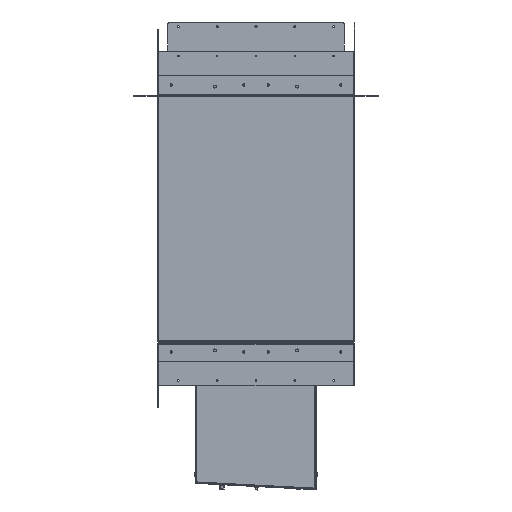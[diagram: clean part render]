
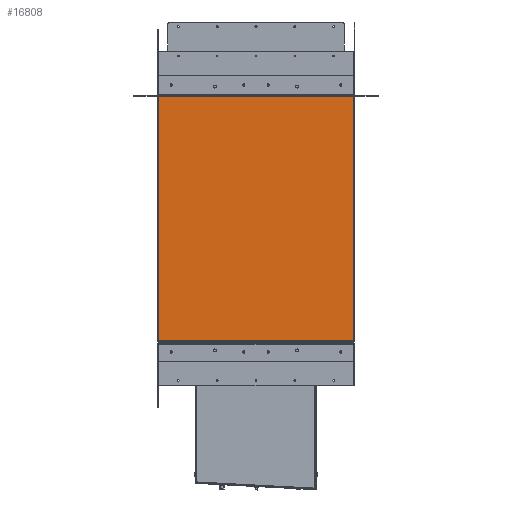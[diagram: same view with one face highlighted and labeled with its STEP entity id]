
A CAD part, left-side view. The second image highlights one B-rep face of the part: STEP entity #16808.
In plain terms, the highlighted planar face has unit normal (-1, 0, 0) as drawn and (0, 0, 1) by its records, which use the part's own axes.
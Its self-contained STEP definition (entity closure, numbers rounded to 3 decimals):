
#772 = LINE ( 'NONE', #38617, #93435 ) ;
#6147 = CARTESIAN_POINT ( 'NONE',  ( 201.293, -252., 1. ) ) ;
#11344 = DIRECTION ( 'NONE',  ( 0., 1., 0. ) ) ;
#11876 = CARTESIAN_POINT ( 'NONE',  ( -201., -252., 1. ) ) ;
#15704 = FACE_OUTER_BOUND ( 'NONE', #84969, .T. ) ;
#16808 = ADVANCED_FACE ( 'NONE', ( #15704 ), #41401, .T. ) ;
#17916 = ORIENTED_EDGE ( 'NONE', *, *, #97269, .F. ) ;
#25250 = VERTEX_POINT ( 'NONE', #38329 ) ;
#27464 = VECTOR ( 'NONE', #46084, 1000. ) ;
#27955 = ORIENTED_EDGE ( 'NONE', *, *, #50735, .F. ) ;
#28060 = VERTEX_POINT ( 'NONE', #37897 ) ;
#28129 = CARTESIAN_POINT ( 'NONE',  ( -201., -252.293, 1. ) ) ;
#31467 = DIRECTION ( 'NONE',  ( 0., 0., 1. ) ) ;
#35189 = VERTEX_POINT ( 'NONE', #53573 ) ;
#37897 = CARTESIAN_POINT ( 'NONE',  ( 201., 252., 1. ) ) ;
#38329 = CARTESIAN_POINT ( 'NONE',  ( -201., 252., 1. ) ) ;
#38617 = CARTESIAN_POINT ( 'NONE',  ( 201., 252.293, 1. ) ) ;
#41401 = PLANE ( 'NONE',  #85722 ) ;
#44426 = LINE ( 'NONE', #28129, #64022 ) ;
#46084 = DIRECTION ( 'NONE',  ( -1., 0., 0. ) ) ;
#50735 = EDGE_CURVE ( 'NONE', #50785, #25250, #44426, .T. ) ;
#50785 = VERTEX_POINT ( 'NONE', #11876 ) ;
#53573 = CARTESIAN_POINT ( 'NONE',  ( 201., -252., 1. ) ) ;
#53986 = LINE ( 'NONE', #6147, #27464 ) ;
#54530 = LINE ( 'NONE', #70282, #61042 ) ;
#57329 = ORIENTED_EDGE ( 'NONE', *, *, #95232, .F. ) ;
#61042 = VECTOR ( 'NONE', #78170, 1000. ) ;
#63475 = DIRECTION ( 'NONE',  ( 1., 0., 0. ) ) ;
#64022 = VECTOR ( 'NONE', #11344, 1000. ) ;
#64469 = EDGE_CURVE ( 'NONE', #25250, #28060, #54530, .T. ) ;
#70282 = CARTESIAN_POINT ( 'NONE',  ( -201.293, 252., 1. ) ) ;
#73976 = CARTESIAN_POINT ( 'NONE',  ( 0., 0., 1. ) ) ;
#77658 = ORIENTED_EDGE ( 'NONE', *, *, #64469, .F. ) ;
#78170 = DIRECTION ( 'NONE',  ( 1., 0., 0. ) ) ;
#84969 = EDGE_LOOP ( 'NONE', ( #57329, #17916, #77658, #27955 ) ) ;
#85722 = AXIS2_PLACEMENT_3D ( 'NONE', #73976, #31467, #63475 ) ;
#87493 = DIRECTION ( 'NONE',  ( 0., -1., 0. ) ) ;
#93435 = VECTOR ( 'NONE', #87493, 1000. ) ;
#95232 = EDGE_CURVE ( 'NONE', #35189, #50785, #53986, .T. ) ;
#97269 = EDGE_CURVE ( 'NONE', #28060, #35189, #772, .T. ) ;
